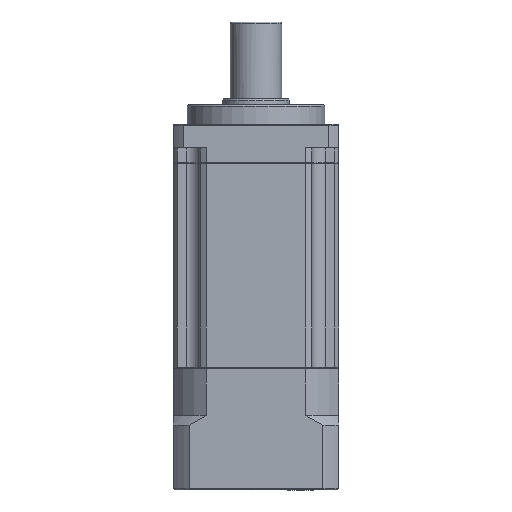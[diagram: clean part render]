
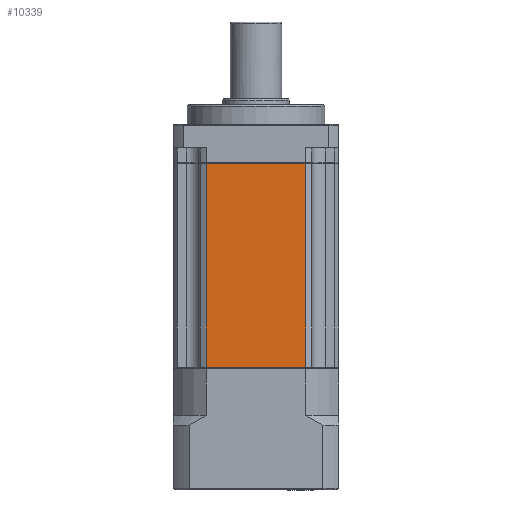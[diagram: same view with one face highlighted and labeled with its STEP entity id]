
A CAD part, front view. The second image highlights one B-rep face of the part: STEP entity #10339.
In plain terms, the highlighted planar face has unit normal (0, -1, 0).
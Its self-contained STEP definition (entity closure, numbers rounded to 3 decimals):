
#3769 = EDGE_CURVE ( 'NONE', #8912, #74539, #43225, .T. ) ;
#6141 = DIRECTION ( 'NONE',  ( -1., 0., 0. ) ) ;
#6315 = VERTEX_POINT ( 'NONE', #84121 ) ;
#8912 = VERTEX_POINT ( 'NONE', #30904 ) ;
#9979 = VECTOR ( 'NONE', #45385, 1000. ) ;
#10339 = ADVANCED_FACE ( 'NONE', ( #64151 ), #65752, .F. ) ;
#12392 = LINE ( 'NONE', #45691, #49918 ) ;
#13888 = CARTESIAN_POINT ( 'NONE',  ( 13.05, -1.757, -11.253 ) ) ;
#19723 = DIRECTION ( 'NONE',  ( 1., 0., 0. ) ) ;
#20947 = VECTOR ( 'NONE', #19723, 1000. ) ;
#30904 = CARTESIAN_POINT ( 'NONE',  ( 13.05, -1.757, 40.747 ) ) ;
#31172 = LINE ( 'NONE', #13888, #70965 ) ;
#34302 = VERTEX_POINT ( 'NONE', #80940 ) ;
#37858 = CARTESIAN_POINT ( 'NONE',  ( 43.347, -1.757, -11.003 ) ) ;
#43037 = EDGE_CURVE ( 'NONE', #6315, #34302, #47515, .T. ) ;
#43225 = LINE ( 'NONE', #57021, #20947 ) ;
#44229 = CARTESIAN_POINT ( 'NONE',  ( 38.288, -1.757, 40.747 ) ) ;
#45385 = DIRECTION ( 'NONE',  ( -1., 0., 0. ) ) ;
#45691 = CARTESIAN_POINT ( 'NONE',  ( 38.288, -1.757, -11.253 ) ) ;
#47515 = LINE ( 'NONE', #37858, #9979 ) ;
#48480 = ORIENTED_EDGE ( 'NONE', *, *, #64604, .F. ) ;
#49918 = VECTOR ( 'NONE', #53207, 1000. ) ;
#51038 = DIRECTION ( 'NONE',  ( 0., 1., 0. ) ) ;
#53207 = DIRECTION ( 'NONE',  ( 0., 0., -1. ) ) ;
#53654 = EDGE_CURVE ( 'NONE', #34302, #8912, #31172, .T. ) ;
#57021 = CARTESIAN_POINT ( 'NONE',  ( 11.491, -1.757, 40.747 ) ) ;
#58751 = DIRECTION ( 'NONE',  ( 0., 0., 1. ) ) ;
#64151 = FACE_OUTER_BOUND ( 'NONE', #77605, .T. ) ;
#64604 = EDGE_CURVE ( 'NONE', #74539, #6315, #12392, .T. ) ;
#65752 = PLANE ( 'NONE',  #85202 ) ;
#70965 = VECTOR ( 'NONE', #58751, 1000. ) ;
#74539 = VERTEX_POINT ( 'NONE', #44229 ) ;
#77060 = ORIENTED_EDGE ( 'NONE', *, *, #43037, .F. ) ;
#77605 = EDGE_LOOP ( 'NONE', ( #77060, #48480, #83650, #83458 ) ) ;
#80940 = CARTESIAN_POINT ( 'NONE',  ( 13.05, -1.757, -11.003 ) ) ;
#83458 = ORIENTED_EDGE ( 'NONE', *, *, #53654, .F. ) ;
#83650 = ORIENTED_EDGE ( 'NONE', *, *, #3769, .F. ) ;
#84121 = CARTESIAN_POINT ( 'NONE',  ( 38.288, -1.757, -11.003 ) ) ;
#85202 = AXIS2_PLACEMENT_3D ( 'NONE', #95872, #51038, #6141 ) ;
#95872 = CARTESIAN_POINT ( 'NONE',  ( 11.491, -1.757, -11.253 ) ) ;
